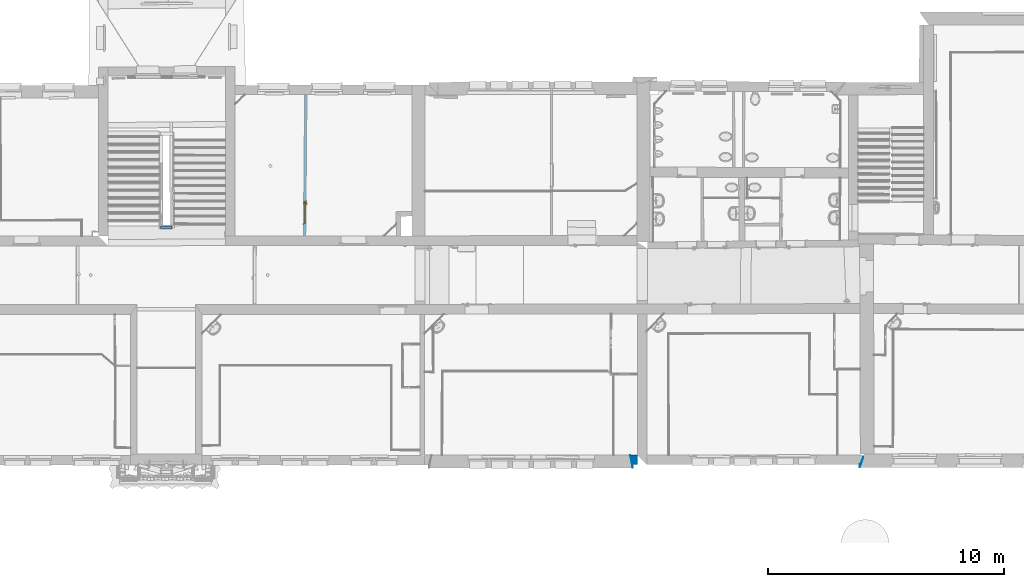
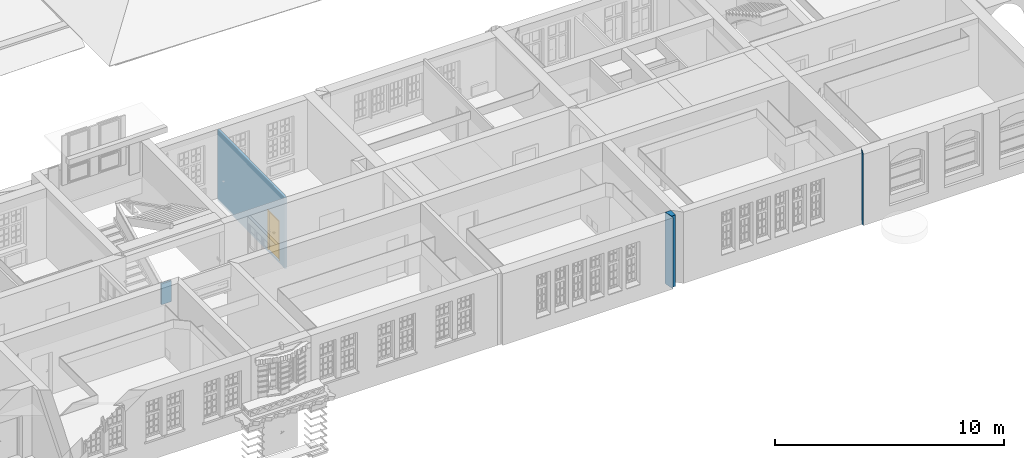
# One storey, part 76 of 158: 4 walls, 1 door, 1 opening, plus 1 element that does not belong to this part.
"""IFC2X3 building model written with IfcOpenShell, lengths in metres."""

from ifc_helpers import new_model, entity, si_unit, converted_unit, derived_unit, money_unit, direction, frame, origin_with_axes, origin_2d_with_axis, place, context, subcontext, project, spatial, polyline, rectangle, outline, extrude, boolean, faceted_brep, material, layer, layer_set, layer_usage, type_object, element, fill, save


model = new_model("IFC2X3")

# Units and contexts
model_context = context("Model", 3, precision=1e-05, world=origin_with_axes(), true_north=direction((0.0, 1.0)))
body_context = subcontext(model_context, "Body", "Model", "MODEL_VIEW")
ifc_project = project(units=[si_unit("LENGTHUNIT", "METRE"), si_unit("AREAUNIT", "SQUARE_METRE"), si_unit("VOLUMEUNIT", "CUBIC_METRE"), converted_unit("PLANEANGLEUNIT", "DEGREE", entity("IfcPlaneAngleMeasure", 0.0174532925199), si_unit("PLANEANGLEUNIT", "RADIAN"), dimensions=[0, 0, 0, 0, 0, 0, 0]), money_unit("EUR"), converted_unit("TIMEUNIT", "Year", entity("IfcTimeMeasure", 31556926.0), si_unit("TIMEUNIT", "SECOND"), dimensions=[0, 0, 1, 0, 0, 0, 0]), si_unit("MASSUNIT", "GRAM", prefix="KILO"), si_unit("THERMODYNAMICTEMPERATUREUNIT", "DEGREE_CELSIUS"), si_unit("LUMINOUSINTENSITYUNIT", "LUMEN"), si_unit("ENERGYUNIT", "JOULE", prefix="MEGA"), derived_unit("THERMALCONDUCTANCEUNIT", [(si_unit("POWERUNIT", "WATT"), 1), (si_unit("LENGTHUNIT", "METRE"), -1), (si_unit("THERMODYNAMICTEMPERATUREUNIT", "KELVIN"), -1)]), derived_unit("SPECIFICHEATCAPACITYUNIT", [(si_unit("ENERGYUNIT", "JOULE"), 1), (si_unit("MASSUNIT", "GRAM", prefix="KILO"), -1), (si_unit("THERMODYNAMICTEMPERATUREUNIT", "KELVIN"), -1)]), derived_unit("MASSDENSITYUNIT", [(si_unit("MASSUNIT", "GRAM", prefix="KILO"), 1), (si_unit("VOLUMEUNIT", "CUBIC_METRE"), -1)])], contexts=[model_context])

# Site, building, storey
site_placement = place(None, origin_with_axes())
site = spatial("IfcSite", under=ifc_project, at=site_placement, Name="Gelände", CompositionType="ELEMENT")
building_placement = place(site_placement, origin_with_axes())
building = spatial("IfcBuilding", under=site, at=building_placement, Name="Gebäude", CompositionType="ELEMENT")
storey_placement = place(building_placement, origin_with_axes())
storey = spatial("IfcBuildingStorey", under=building, at=storey_placement, Name="ERDGESCHOSS", CompositionType="ELEMENT", Elevation=0.0)

# Walls
ifc_material_1 = material(Name="05_ALLGEMEIN - TRAGENDE BAUTEILE")
wall_type_1 = type_object("IfcWallType", Name="05_ALLGEMEIN - TRAGENDE BAUTEILE 200", PredefinedType="ELEMENTEDWALL")
wall_1_placement = place(storey_placement, frame((21.9741936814, 10.0144287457, -0.295), z_axis=(0.0, 0.0, 1.0), x_axis=(0.00946795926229, -0.999955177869, 0.0)))
element("IfcWall", 1, at=wall_1_placement, inside=storey, type_object=wall_type_1, material=ifc_material_1, Name="Wand-035", ObjectType="ELEMENTEDWALL", context=body_context, shape_type="CSG", body=[
    boolean("DIFFERENCE", extrude(outline(polyline([(-0.454518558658, 0.0), (0.127345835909, 0.0), (0.127345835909, 0.2), (-0.454518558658, 0.2), (-0.454518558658, 0.0)])), origin_with_axes(), (0.0, 0.0, 1.0), 3.895), faceted_brep([(-0.306853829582, 0.15218999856, 3.895), (0.125505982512, 0.0, 3.895), (0.127345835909, 0.0, 3.895), (0.127345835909, 0.2, 3.895), (-0.454518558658, 0.2, 3.895), (-0.454518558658, 0.0, 3.895), (0.0, 0.0, 3.895), (-0.306853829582, 0.15218999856, 0.085), (0.125505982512, 0.0, 0.085), (0.0, 0.0, 0.085), (-0.454518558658, 0.0, 0.0), (0.127345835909, 0.0, 0.0), (0.127345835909, 0.2, 0.0), (-0.454518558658, 0.2, 0.0)], [[[0, 1, 2, 3, 4, 5, 6]], [[1, 0, 7, 8]], [[9, 6, 5, 10, 11, 2, 1, 8]], [[2, 11, 12, 3]], [[3, 12, 13, 4]], [[4, 13, 10, 5]], [[0, 6, 9, 7]], [[9, 8, 7]], [[11, 10, 13, 12]]])),
])
wall_type_2 = type_object("IfcWallType", Name="05_ALLGEMEIN - TRAGENDE BAUTEILE 100", PredefinedType="ELEMENTEDWALL")
wall_2_placement = place(storey_placement, frame((12.3581123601, 9.87290900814, -0.21), z_axis=(0.0, 0.0, 1.0), x_axis=(0.000174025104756, 0.999999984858, 0.0)))
element("IfcWall", 2, at=wall_2_placement, inside=storey, type_object=wall_type_2, material=ifc_material_1, Name="Wand-033", ObjectType="ELEMENTEDWALL", context=body_context, shape_type="CSG", body=[
    boolean("DIFFERENCE", extrude(outline(polyline([(0.0, 0.0), (0.540323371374, 0.0), (0.540323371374, 0.1), (0.0, 0.1), (0.0, 0.0)])), origin_with_axes(), (0.0, 0.0, 1.0), 3.81), faceted_brep([(0.54000000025, 0.1, 3.81), (0.54000000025, 0.0999403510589, 3.81), (0.135323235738, 0.0, 3.81), (0.540323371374, 0.0, 3.81), (0.540323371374, 0.1, 3.81), (0.54000000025, 0.1, 0.0), (0.54000000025, 0.0999403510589, 0.0), (0.135323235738, 0.0, 0.0), (0.540323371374, 0.0, 0.0), (0.540323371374, 0.1, 0.0), (0.0, 0.1, 0.0), (0.0, 0.1, 3.81), (0.0, 0.0, 3.81), (0.0, 0.0, 0.0)], [[[0, 1, 2, 3, 4]], [[1, 0, 5, 6]], [[7, 2, 1, 6]], [[2, 7, 8, 3]], [[3, 8, 9, 4]], [[4, 9, 5, 10, 11, 0]], [[0, 12, 13, 5]], [[6, 5, 9, 8, 7]], [[5, 13, 10]], [[13, 12, 11, 10]], [[12, 0, 11]]])),
])
wall_type_3 = type_object("IfcWallType", Name="05_ALLGEMEIN - TRAGENDE BAUTEILE 405", PredefinedType="ELEMENTEDWALL")
wall_3_placement = place(storey_placement, frame((12.3581359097, 10.0082322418, -0.21), z_axis=(0.0, 0.0, 1.0), x_axis=(0.99999979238, 0.000644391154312, 0.0)))
element("IfcWall", 3, at=wall_3_placement, inside=storey, type_object=wall_type_3, material=ifc_material_1, Name="Wand-034", ObjectType="ELEMENTEDWALL", context=body_context, shape_type="CSG", body=[
    boolean("DIFFERENCE", extrude(outline(polyline([(-0.10000003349, 0.0), (0.609705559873, 0.0), (0.609705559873, 0.405), (-0.10000003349, 0.405), (-0.10000003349, 0.0)])), origin_with_axes(), (0.0, 0.0, 1.0), 3.81), faceted_brep([(-0.0996091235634, 0.404758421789, 3.81), (0.199597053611, 0.404513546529, 3.81), (0.199705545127, 0.0, 3.81), (0.609705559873, 0.0, 3.81), (0.609705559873, 0.405, 3.81), (-0.10000003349, 0.405, 3.81), (-0.10000003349, 0.0, 3.81), (0.0, 0.0, 3.81), (-0.0996091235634, 0.404758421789, 0.0), (0.199597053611, 0.404513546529, 0.0), (0.199597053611, 0.404513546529, 0.14), (0.199705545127, 0.0, 0.0), (0.609705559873, 0.0, 0.0), (0.609705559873, 0.405, 0.0), (-0.10000003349, 0.405, 0.0), (-0.10000003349, 0.0, 0.0), (0.0, 0.0, 0.0)], [[[0, 1, 2, 3, 4, 5, 6, 7]], [[1, 0, 8, 9, 10]], [[11, 2, 1, 10, 9]], [[2, 11, 12, 3]], [[3, 12, 13, 4]], [[4, 13, 14, 5]], [[5, 14, 15, 6]], [[16, 7, 6, 15]], [[0, 7, 16, 8]], [[8, 16, 15, 14, 13, 12, 11, 9]]])),
])

# Wall, opening, door
ifc_material_2 = material(Name="43_Gipskarton")
ifc_layer = layer(ifc_material_2, 0.1, ventilated="UNKNOWN")
ifc_layer_set = layer_set([ifc_layer], Name="43_Gipskarton 0.1")
ifc_layer_usage = layer_usage(ifc_layer_set, "AXIS2", "NEGATIVE", 0.0)
wall_type_4 = type_object("IfcWallType", Name="43_Gipskarton 100", PredefinedType="ELEMENTEDWALL")
wall_4_placement = place(storey_placement, frame((-1.42108539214, 26.0654513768, -0.21), z_axis=(0.0, 0.0, 1.0), x_axis=(-0.00889496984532, -0.999960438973, 0.0)))
wall_4 = element("IfcWallStandardCase", 4, at=wall_4_placement, inside=storey, type_object=wall_type_4, material=ifc_layer_usage, Name="Wand-038", ObjectType="ELEMENTEDWALL", context=body_context, shape_type="SweptSolid", body=[
    extrude(outline(polyline([(0.401050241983, -0.1), (6.37488743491, -0.1), (6.37396878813, 0.0), (0.400021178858, 0.0), (0.401050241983, -0.1)])), origin_with_axes(), (0.0, 0.0, 1.0), 3.81),
])
opening_placement = place(wall_4_placement, frame((5.3862509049, 0.0, 0.126115), z_axis=(0.0, 0.0, 1.0), x_axis=(1.0, 0.0, 0.0)))
opening = element("IfcOpeningElement", 5, at=opening_placement, cuts=wall_4, Name="Tür-022", context=body_context, shape_type="SweptSolid", body=[
    extrude(rectangle(XDim=0.966881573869, YDim=2.103887, at=origin_2d_with_axis()), frame((0.0, -0.1, 1.0519435), z_axis=(0.0, 1.0, 0.0), x_axis=(1.0, 0.0, 0.0)), (0.0, 0.0, 1.0), 0.3),
])
door_style = type_object("IfcDoorStyle", Name="Blockrahmentür 1-Fl 25", ConstructionType="NOTDEFINED", OperationType="SINGLE_SWING_RIGHT", ParameterTakesPrecedence=False, Sizeable=False)
door_placement = place(opening_placement, frame((-0.472940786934, 0.0, 0.0), z_axis=(0.0, 0.0, 1.0), x_axis=(1.0, 0.0, 0.0)))
door = element("IfcDoor", 6, at=door_placement, inside=storey, type_object=door_style, Name="Tür-022", ObjectType="NOTDEFINED", OverallHeight=2.10389, OverallWidth=0.966882, context=body_context, shape_type="Brep", body=[
    faceted_brep([(0.956381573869, -0.111, 0.0), (0.956381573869, -0.054, 0.0), (0.956381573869, -0.054, 2.103887), (0.956381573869, -0.111, 2.103887), (0.945881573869, -0.111, 0.0), (0.945881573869, -0.054, 0.0), (0.945881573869, -0.054, 2.093387), (0.588040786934, -0.054, 2.093387), (0.473040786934, -0.054, 2.093387), (0.0, -0.054, 2.093387), (0.0, -0.054, 0.0), (-0.0105, -0.054, 0.0), (-0.0105, -0.054, 2.103887), (-0.0105, -0.111, 2.103887), (-0.0105, -0.111, 0.0), (0.0, -0.111, 0.0), (0.0, -0.111, 2.093387), (0.473040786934, -0.111, 2.093387), (0.588040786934, -0.111, 2.093387), (0.945881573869, -0.111, 2.093387)], [[[0, 1, 2, 3]], [[4, 5, 1, 0]], [[1, 5, 6, 7, 8, 9, 10, 11, 12, 2]], [[3, 2, 12, 13]], [[0, 3, 13, 14, 15, 16, 17, 18, 19, 4]], [[19, 6, 5, 4]], [[18, 7, 6, 19]], [[17, 8, 7, 18]], [[16, 9, 8, 17]], [[15, 10, 9, 16]], [[14, 11, 10, 15]], [[13, 12, 11, 14]]]),
    faceted_brep([(0.956381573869, -0.054, 0.0), (0.956381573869, 0.011, 0.0), (0.960881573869, 0.011, 0.0), (0.960881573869, -0.054, 0.0), (0.956381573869, -0.054, 2.103887), (0.956381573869, 0.011, 2.103887), (-0.0105, 0.011, 2.103887), (-0.0105, 0.011, 0.0), (-0.015, 0.011, 0.0), (-0.015, 0.011, 2.108387), (0.488040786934, 0.011, 2.108387), (0.573040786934, 0.011, 2.108387), (0.960881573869, 0.011, 2.108387), (0.960881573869, -0.054, 2.108387), (0.573040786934, -0.054, 2.108387), (0.488040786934, -0.054, 2.108387), (-0.015, -0.054, 2.108387), (-0.015, -0.054, 0.0), (-0.0105, -0.054, 0.0), (-0.0105, -0.054, 2.103887)], [[[0, 1, 2, 3]], [[4, 5, 1, 0]], [[1, 5, 6, 7, 8, 9, 10, 11, 12, 2]], [[3, 2, 12, 13]], [[0, 3, 13, 14, 15, 16, 17, 18, 19, 4]], [[19, 6, 5, 4]], [[18, 7, 6, 19]], [[17, 8, 7, 18]], [[16, 9, 8, 17]], [[15, 10, 9, 16]], [[14, 11, 10, 15]], [[13, 12, 11, 14]]]),
    faceted_brep([(0.996381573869, -0.111, 0.0), (0.996381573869, -0.1, 0.0), (0.996381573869, -0.1, 2.143887), (0.996381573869, -0.111, 2.143887), (0.956381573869, -0.111, 0.0), (0.956381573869, -0.1, 0.0), (0.956381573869, -0.1, 2.103887), (-0.0105, -0.1, 2.103887), (-0.0105, -0.1, 0.0), (-0.0505, -0.1, 0.0), (-0.0505, -0.1, 2.143887), (-0.0505, -0.111, 2.143887), (-0.0505, -0.111, 0.0), (-0.0105, -0.111, 0.0), (-0.0105, -0.111, 2.103887), (0.956381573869, -0.111, 2.103887)], [[[0, 1, 2, 3]], [[4, 5, 1, 0]], [[1, 5, 6, 7, 8, 9, 10, 2]], [[3, 2, 10, 11]], [[0, 3, 11, 12, 13, 14, 15, 4]], [[15, 6, 5, 4]], [[14, 7, 6, 15]], [[13, 8, 7, 14]], [[12, 9, 8, 13]], [[11, 10, 9, 12]]]),
    faceted_brep([(0.996381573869, 0.0, 0.0), (0.996381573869, 0.011, 0.0), (0.996381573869, 0.011, 2.143887), (0.996381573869, 0.0, 2.143887), (0.956381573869, 0.0, 0.0), (0.956381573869, 0.011, 0.0), (0.956381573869, 0.011, 2.103887), (-0.0105, 0.011, 2.103887), (-0.0105, 0.011, 0.0), (-0.0505, 0.011, 0.0), (-0.0505, 0.011, 2.143887), (-0.0505, 0.0, 2.143887), (-0.0505, 0.0, 0.0), (-0.0105, 0.0, 0.0), (-0.0105, 0.0, 2.103887), (0.956381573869, 0.0, 2.103887)], [[[0, 1, 2, 3]], [[4, 5, 1, 0]], [[1, 5, 6, 7, 8, 9, 10, 2]], [[3, 2, 10, 11]], [[0, 3, 11, 12, 13, 14, 15, 4]], [[15, 6, 5, 4]], [[14, 7, 6, 15]], [[13, 8, 7, 14]], [[12, 9, 8, 13]], [[11, 10, 9, 12]]]),
    faceted_brep([(0.960881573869, -0.014, 0.0), (-0.015, -0.014, 0.0), (-0.015, -0.014, 2.108387), (0.960881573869, -0.014, 2.108387), (0.960881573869, -0.054, 0.0), (-0.015, -0.054, 0.0), (-0.015, -0.054, 2.108387), (0.960881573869, -0.054, 2.108387)], [[[0, 1, 2, 3]], [[1, 0, 4, 5]], [[2, 1, 5, 6]], [[3, 2, 6, 7]], [[0, 3, 7, 4]], [[5, 4, 7, 6]]]),
    faceted_brep([(0.0402977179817, -0.094, 1.05647213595), (0.045, -0.094, 1.058), (0.045, -0.074, 1.058), (0.0402977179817, -0.074, 1.05647213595), (0.0373915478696, -0.094, 1.05247213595), (0.0373915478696, -0.094, 1.04752786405), (0.0402977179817, -0.094, 1.04352786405), (0.045, -0.094, 1.042), (0.0497022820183, -0.094, 1.04352786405), (0.0526084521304, -0.094, 1.04752786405), (0.0526084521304, -0.094, 1.05247213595), (0.0497022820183, -0.094, 1.05647213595), (0.0497022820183, -0.074, 1.05647213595), (0.045, -0.072, 1.06), (0.0391221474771, -0.072, 1.05809016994), (0.0373915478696, -0.074, 1.05247213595), (0.0373915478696, -0.074, 1.04752786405), (0.0402977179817, -0.074, 1.04352786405), (0.045, -0.074, 1.042), (0.0497022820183, -0.074, 1.04352786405), (0.0526084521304, -0.074, 1.04752786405), (0.0526084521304, -0.074, 1.05247213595), (0.0508778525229, -0.072, 1.05809016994), (0.045, -0.064, 1.06), (0.0391221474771, -0.064, 1.05809016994), (0.035489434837, -0.072, 1.05309016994), (0.035489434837, -0.072, 1.04690983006), (0.0391221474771, -0.072, 1.04190983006), (0.045, -0.072, 1.04), (0.0508778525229, -0.072, 1.04190983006), (0.054510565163, -0.072, 1.04690983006), (0.054510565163, -0.072, 1.05309016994), (0.0508778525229, -0.064, 1.05809016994), (0.0545105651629, -0.064, 1.05309016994), (0.0545105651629, -0.064, 1.04690983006), (0.0508778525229, -0.064, 1.04190983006), (0.045, -0.064, 1.04), (0.0391221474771, -0.064, 1.04190983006), (0.0354894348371, -0.064, 1.04690983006), (0.0354894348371, -0.064, 1.05309016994)], [[[0, 1, 2, 3]], [[1, 0, 4, 5, 6, 7, 8, 9, 10, 11]], [[1, 11, 12, 2]], [[3, 2, 13, 14]], [[4, 0, 3, 15]], [[5, 4, 15, 16]], [[6, 5, 16, 17]], [[7, 6, 17, 18]], [[8, 7, 18, 19]], [[9, 8, 19, 20]], [[10, 9, 20, 21]], [[11, 10, 21, 12]], [[2, 12, 22, 13]], [[14, 13, 23, 24]], [[15, 3, 14, 25]], [[16, 15, 25, 26]], [[17, 16, 26, 27]], [[18, 17, 27, 28]], [[19, 18, 28, 29]], [[20, 19, 29, 30]], [[21, 20, 30, 31]], [[12, 21, 31, 22]], [[13, 22, 32, 23]], [[23, 32, 33, 34, 35, 36, 37, 38, 39, 24]], [[25, 14, 24, 39]], [[26, 25, 39, 38]], [[27, 26, 38, 37]], [[28, 27, 37, 36]], [[29, 28, 36, 35]], [[30, 29, 35, 34]], [[31, 30, 34, 33]], [[22, 31, 33, 32]]]),
    faceted_brep([(0.0571883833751, -0.064, 1.11759695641), (0.0494435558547, -0.064, 1.12195567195), (0.0405564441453, -0.064, 1.12195567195), (0.0328116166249, -0.064, 1.11759695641), (0.0282, -0.064, 1.11), (0.0225, -0.064, 1.11), (0.0225, -0.064, 0.89), (0.0282, -0.064, 0.89), (0.0328116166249, -0.064, 0.882403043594), (0.0405564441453, -0.064, 0.878044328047), (0.0494435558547, -0.064, 0.878044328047), (0.0571883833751, -0.064, 0.882403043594), (0.0618, -0.064, 0.89), (0.0675, -0.064, 0.89), (0.0675, -0.064, 1.11), (0.0618, -0.064, 1.11), (0.045, -0.064, 0.967425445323), (0.050375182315, -0.064, 0.965143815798), (0.0524678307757, -0.064, 0.959692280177), (0.05, -0.064, 0.9544), (0.05, -0.064, 0.9375), (0.0485355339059, -0.064, 0.933964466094), (0.045, -0.064, 0.9325), (0.0414644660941, -0.064, 0.933964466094), (0.04, -0.064, 0.9375), (0.04, -0.064, 0.9544), (0.0375321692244, -0.064, 0.959692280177), (0.039624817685, -0.064, 0.965143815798), (0.0571883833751, -0.054, 1.11759695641), (0.0494435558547, -0.054, 1.12195567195), (0.0405564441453, -0.054, 1.12195567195), (0.0328116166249, -0.054, 1.11759695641), (0.0282, -0.054, 1.11), (0.0225, -0.054, 1.11), (0.0225, -0.054, 0.89), (0.0282, -0.054, 0.89), (0.0328116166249, -0.054, 0.882403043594), (0.0405564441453, -0.054, 0.878044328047), (0.0494435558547, -0.054, 0.878044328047), (0.0571883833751, -0.054, 0.882403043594), (0.0618, -0.054, 0.89), (0.0675, -0.054, 0.89), (0.0675, -0.054, 1.11), (0.0618, -0.054, 1.11), (0.045, -0.054, 0.967425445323), (0.050375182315, -0.054, 0.965143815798), (0.0524678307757, -0.054, 0.959692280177), (0.05, -0.054, 0.9544), (0.05, -0.054, 0.9375), (0.0485355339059, -0.054, 0.933964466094), (0.045, -0.054, 0.9325), (0.0414644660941, -0.054, 0.933964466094), (0.04, -0.054, 0.9375), (0.04, -0.054, 0.9544), (0.0375321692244, -0.054, 0.959692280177), (0.039624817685, -0.054, 0.965143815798)], [[[0, 1, 2, 3, 4, 5, 6, 7, 8, 9, 10, 11, 12, 13, 14, 15], [16, 17, 18, 19, 20, 21, 22, 23, 24, 25, 26, 27]], [[1, 0, 28, 29]], [[2, 1, 29, 30]], [[3, 2, 30, 31]], [[4, 3, 31, 32]], [[5, 4, 32, 33]], [[6, 5, 33, 34]], [[7, 6, 34, 35]], [[8, 7, 35, 36]], [[9, 8, 36, 37]], [[10, 9, 37, 38]], [[11, 10, 38, 39]], [[12, 11, 39, 40]], [[13, 12, 40, 41]], [[14, 13, 41, 42]], [[15, 14, 42, 43]], [[0, 15, 43, 28]], [[17, 16, 44, 45]], [[18, 17, 45, 46]], [[19, 18, 46, 47]], [[19, 47, 48, 20]], [[20, 48, 49, 21]], [[21, 49, 50, 22]], [[22, 50, 51, 23]], [[23, 51, 52, 24]], [[53, 25, 24, 52]], [[26, 25, 53, 54]], [[27, 26, 54, 55]], [[16, 27, 55, 44]], [[40, 39, 38, 37, 36, 35, 34, 33, 32, 31, 30, 29, 28, 43, 42, 41], [54, 53, 52, 51, 50, 49, 48, 47, 46, 45, 44, 55]]]),
    faceted_brep([(0.159253, -0.094, 1.057158), (0.159253, -0.109, 1.057158), (0.159254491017, -0.109, 1.05719388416), (0.159254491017, -0.094, 1.05719388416), (0.132225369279, -0.094, 1.06432652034), (0.132225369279, -0.109, 1.06432652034), (0.104397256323, -0.109, 1.06706086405), (0.0764912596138, -0.109, 1.06529002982), (0.049232, -0.109, 1.05906), (0.0428294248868, -0.109, 1.05976125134), (0.0373273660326, -0.109, 1.05641280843), (0.0350084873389, -0.109, 1.05040385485), (0.0368348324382, -0.109, 1.04422735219), (0.0420486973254, -0.109, 1.04044577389), (0.0484869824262, -0.109, 1.04062800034), (0.0534786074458, -0.109, 1.04469843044), (0.053458, -0.109, 1.044666), (0.0787467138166, -0.109, 1.05019878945), (0.104589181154, -0.109, 1.05171460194), (0.130351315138, -0.109, 1.04917624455), (0.155401, -0.109, 1.042646), (0.160944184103, -0.109, 1.04356849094), (0.16430572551, -0.109, 1.04807159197), (0.163614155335, -0.109, 1.05364829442), (0.163614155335, -0.094, 1.05364829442), (0.16430572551, -0.094, 1.04807159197), (0.160944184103, -0.094, 1.04356849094), (0.155401, -0.094, 1.042646), (0.130351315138, -0.094, 1.04917624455), (0.104589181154, -0.094, 1.05171460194), (0.0787467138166, -0.094, 1.05019878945), (0.053458, -0.094, 1.044666), (0.0534786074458, -0.094, 1.04469843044), (0.0484869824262, -0.094, 1.04062800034), (0.0420486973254, -0.094, 1.04044577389), (0.0368348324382, -0.094, 1.04422735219), (0.0350084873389, -0.094, 1.05040385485), (0.0373273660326, -0.094, 1.05641280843), (0.0428294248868, -0.094, 1.05976125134), (0.049232, -0.094, 1.05906), (0.0764912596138, -0.094, 1.06529002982), (0.104397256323, -0.094, 1.06706086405)], [[[0, 1, 2, 3]], [[4, 5, 1, 0]], [[1, 5, 6, 7, 8, 9, 10, 11, 12, 13, 14, 15, 16, 17, 18, 19, 20, 21, 22, 23, 2]], [[3, 2, 23, 24]], [[0, 3, 24, 25, 26, 27, 28, 29, 30, 31, 32, 33, 34, 35, 36, 37, 38, 39, 40, 41, 4]], [[41, 6, 5, 4]], [[40, 7, 6, 41]], [[39, 8, 7, 40]], [[38, 9, 8, 39]], [[37, 10, 9, 38]], [[36, 11, 10, 37]], [[35, 12, 11, 36]], [[34, 13, 12, 35]], [[33, 14, 13, 34]], [[32, 15, 14, 33]], [[31, 16, 15, 32]], [[30, 17, 16, 31]], [[29, 18, 17, 30]], [[28, 19, 18, 29]], [[27, 20, 19, 28]], [[26, 21, 20, 27]], [[25, 22, 21, 26]], [[24, 23, 22, 25]]]),
    faceted_brep([(0.0402977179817, 0.026, 1.05647213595), (0.0402977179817, 0.006, 1.05647213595), (0.045, 0.006, 1.058), (0.045, 0.026, 1.058), (0.0373915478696, 0.026, 1.05247213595), (0.0373915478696, 0.006, 1.05247213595), (0.0391221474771, 0.004, 1.05809016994), (0.045, 0.004, 1.06), (0.0497022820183, 0.006, 1.05647213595), (0.0497022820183, 0.026, 1.05647213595), (0.0526084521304, 0.026, 1.05247213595), (0.0526084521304, 0.026, 1.04752786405), (0.0497022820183, 0.026, 1.04352786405), (0.045, 0.026, 1.042), (0.0402977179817, 0.026, 1.04352786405), (0.0373915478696, 0.026, 1.04752786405), (0.0373915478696, 0.006, 1.04752786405), (0.035489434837, 0.004, 1.05309016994), (0.0391221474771, -0.004, 1.05809016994), (0.045, -0.004, 1.06), (0.0508778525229, 0.004, 1.05809016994), (0.0526084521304, 0.006, 1.05247213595), (0.0526084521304, 0.006, 1.04752786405), (0.0497022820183, 0.006, 1.04352786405), (0.045, 0.006, 1.042), (0.0402977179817, 0.006, 1.04352786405), (0.035489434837, 0.004, 1.04690983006), (0.0354894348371, -0.004, 1.05309016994), (0.0354894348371, -0.004, 1.04690983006), (0.0391221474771, -0.004, 1.04190983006), (0.045, -0.004, 1.04), (0.0508778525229, -0.004, 1.04190983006), (0.054510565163, -0.004, 1.04690983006), (0.054510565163, -0.004, 1.05309016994), (0.0508778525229, -0.004, 1.05809016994), (0.0545105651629, 0.004, 1.05309016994), (0.0545105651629, 0.004, 1.04690983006), (0.0508778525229, 0.004, 1.04190983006), (0.045, 0.004, 1.04), (0.0391221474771, 0.004, 1.04190983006)], [[[0, 1, 2, 3]], [[4, 5, 1, 0]], [[1, 6, 7, 2]], [[3, 2, 8, 9]], [[3, 9, 10, 11, 12, 13, 14, 15, 4, 0]], [[15, 16, 5, 4]], [[5, 17, 6, 1]], [[6, 18, 19, 7]], [[2, 7, 20, 8]], [[9, 8, 21, 10]], [[10, 21, 22, 11]], [[11, 22, 23, 12]], [[12, 23, 24, 13]], [[13, 24, 25, 14]], [[14, 25, 16, 15]], [[16, 26, 17, 5]], [[17, 27, 18, 6]], [[19, 18, 27, 28, 29, 30, 31, 32, 33, 34]], [[7, 19, 34, 20]], [[8, 20, 35, 21]], [[21, 35, 36, 22]], [[22, 36, 37, 23]], [[23, 37, 38, 24]], [[24, 38, 39, 25]], [[25, 39, 26, 16]], [[26, 28, 27, 17]], [[39, 29, 28, 26]], [[38, 30, 29, 39]], [[37, 31, 30, 38]], [[36, 32, 31, 37]], [[35, 33, 32, 36]], [[20, 34, 33, 35]]]),
    faceted_brep([(0.0571883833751, -0.014, 1.11759695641), (0.0494435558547, -0.014, 1.12195567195), (0.0405564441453, -0.014, 1.12195567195), (0.0328116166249, -0.014, 1.11759695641), (0.0282, -0.014, 1.11), (0.0225, -0.014, 1.11), (0.0225, -0.014, 0.89), (0.0282, -0.014, 0.89), (0.0328116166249, -0.014, 0.882403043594), (0.0405564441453, -0.014, 0.878044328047), (0.0494435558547, -0.014, 0.878044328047), (0.0571883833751, -0.014, 0.882403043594), (0.0618, -0.014, 0.89), (0.0675, -0.014, 0.89), (0.0675, -0.014, 1.11), (0.0618, -0.014, 1.11), (0.045, -0.014, 0.967425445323), (0.050375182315, -0.014, 0.965143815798), (0.0524678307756, -0.014, 0.959692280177), (0.05, -0.014, 0.9544), (0.05, -0.014, 0.9375), (0.0485355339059, -0.014, 0.933964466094), (0.045, -0.014, 0.9325), (0.0414644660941, -0.014, 0.933964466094), (0.04, -0.014, 0.9375), (0.04, -0.014, 0.9544), (0.0375321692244, -0.014, 0.959692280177), (0.039624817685, -0.014, 0.965143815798), (0.0494435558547, -0.004, 1.12195567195), (0.0571883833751, -0.004, 1.11759695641), (0.0405564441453, -0.004, 1.12195567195), (0.0328116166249, -0.004, 1.11759695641), (0.0282, -0.004, 1.11), (0.0225, -0.004, 1.11), (0.0225, -0.004, 0.89), (0.0282, -0.004, 0.89), (0.0328116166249, -0.004, 0.882403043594), (0.0405564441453, -0.004, 0.878044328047), (0.0494435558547, -0.004, 0.878044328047), (0.0571883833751, -0.004, 0.882403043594), (0.0618, -0.004, 0.89), (0.0675, -0.004, 0.89), (0.0675, -0.004, 1.11), (0.0618, -0.004, 1.11), (0.045, -0.004, 0.967425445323), (0.050375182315, -0.004, 0.965143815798), (0.0524678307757, -0.004, 0.959692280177), (0.05, -0.004, 0.9544), (0.05, -0.004, 0.9375), (0.0485355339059, -0.004, 0.933964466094), (0.045, -0.004, 0.9325), (0.0414644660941, -0.004, 0.933964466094), (0.04, -0.004, 0.9375), (0.04, -0.004, 0.9544), (0.0375321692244, -0.004, 0.959692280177), (0.039624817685, -0.004, 0.965143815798)], [[[0, 1, 2, 3, 4, 5, 6, 7, 8, 9, 10, 11, 12, 13, 14, 15], [16, 17, 18, 19, 20, 21, 22, 23, 24, 25, 26, 27]], [[28, 1, 0, 29]], [[30, 2, 1, 28]], [[31, 3, 2, 30]], [[32, 4, 3, 31]], [[33, 5, 4, 32]], [[34, 6, 5, 33]], [[35, 7, 6, 34]], [[36, 8, 7, 35]], [[37, 9, 8, 36]], [[38, 10, 9, 37]], [[39, 11, 10, 38]], [[40, 12, 11, 39]], [[41, 13, 12, 40]], [[42, 14, 13, 41]], [[43, 15, 14, 42]], [[29, 0, 15, 43]], [[17, 16, 44, 45]], [[18, 17, 45, 46]], [[19, 18, 46, 47]], [[19, 47, 48, 20]], [[20, 48, 49, 21]], [[21, 49, 50, 22]], [[22, 50, 51, 23]], [[23, 51, 52, 24]], [[53, 25, 24, 52]], [[26, 25, 53, 54]], [[27, 26, 54, 55]], [[16, 27, 55, 44]], [[40, 39, 38, 37, 36, 35, 34, 33, 32, 31, 30, 28, 29, 43, 42, 41], [54, 53, 52, 51, 50, 49, 48, 47, 46, 45, 44, 55]]]),
    faceted_brep([(0.159253, 0.026, 1.057158), (0.159254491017, 0.026, 1.05719388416), (0.159254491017, 0.041, 1.05719388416), (0.159253, 0.041, 1.057158), (0.132225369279, 0.026, 1.06432652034), (0.104397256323, 0.026, 1.06706086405), (0.0764912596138, 0.026, 1.06529002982), (0.049232, 0.026, 1.05906), (0.0428294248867, 0.026, 1.05976125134), (0.0373273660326, 0.026, 1.05641280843), (0.0350084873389, 0.026, 1.05040385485), (0.0368348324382, 0.026, 1.04422735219), (0.0420486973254, 0.026, 1.04044577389), (0.0484869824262, 0.026, 1.04062800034), (0.0534786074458, 0.026, 1.04469843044), (0.053458, 0.026, 1.044666), (0.0787467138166, 0.026, 1.05019878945), (0.104589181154, 0.026, 1.05171460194), (0.130351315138, 0.026, 1.04917624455), (0.155401, 0.026, 1.042646), (0.160944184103, 0.026, 1.04356849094), (0.16430572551, 0.026, 1.04807159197), (0.163614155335, 0.026, 1.05364829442), (0.163614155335, 0.041, 1.05364829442), (0.16430572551, 0.041, 1.04807159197), (0.160944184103, 0.041, 1.04356849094), (0.155401, 0.041, 1.042646), (0.130351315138, 0.041, 1.04917624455), (0.104589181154, 0.041, 1.05171460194), (0.0787467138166, 0.041, 1.05019878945), (0.053458, 0.041, 1.044666), (0.0534786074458, 0.041, 1.04469843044), (0.0484869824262, 0.041, 1.04062800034), (0.0420486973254, 0.041, 1.04044577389), (0.0368348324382, 0.041, 1.04422735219), (0.0350084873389, 0.041, 1.05040385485), (0.0373273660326, 0.041, 1.05641280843), (0.0428294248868, 0.041, 1.05976125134), (0.049232, 0.041, 1.05906), (0.0764912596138, 0.041, 1.06529002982), (0.104397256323, 0.041, 1.06706086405), (0.132225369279, 0.041, 1.06432652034)], [[[0, 1, 2, 3]], [[0, 4, 5, 6, 7, 8, 9, 10, 11, 12, 13, 14, 15, 16, 17, 18, 19, 20, 21, 22, 1]], [[1, 22, 23, 2]], [[3, 2, 23, 24, 25, 26, 27, 28, 29, 30, 31, 32, 33, 34, 35, 36, 37, 38, 39, 40, 41]], [[4, 0, 3, 41]], [[5, 4, 41, 40]], [[6, 5, 40, 39]], [[7, 6, 39, 38]], [[8, 7, 38, 37]], [[9, 8, 37, 36]], [[10, 9, 36, 35]], [[11, 10, 35, 34]], [[12, 11, 34, 33]], [[13, 12, 33, 32]], [[14, 13, 32, 31]], [[15, 14, 31, 30]], [[16, 15, 30, 29]], [[17, 16, 29, 28]], [[18, 17, 28, 27]], [[19, 18, 27, 26]], [[20, 19, 26, 25]], [[21, 20, 25, 24]], [[22, 21, 24, 23]]]),
])
fill(opening, door)

# Wall
wall_type_5 = type_object("IfcWallType", Name="05_ALLGEMEIN - TRAGENDE BAUTEILE 87", PredefinedType="ELEMENTEDWALL")
wall_5_placement = place(storey_placement, frame((-7.53816169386, 20.0092954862, -0.209998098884), z_axis=(0.0, 0.0, 1.0), x_axis=(1.0, 0.0, 0.0)))
element("IfcWall", 7, at=wall_5_placement, inside=storey, type_object=wall_type_5, material=ifc_material_1, Name="Wand-038", ObjectType="ELEMENTEDWALL", context=body_context, shape_type="CSG", body=[
    boolean("DIFFERENCE", extrude(outline(polyline([(-0.0821688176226, 0.0), (0.411398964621, 0.0), (0.411398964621, 0.0870507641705), (-0.0821688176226, 0.0870507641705), (-0.0821688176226, 0.0)])), origin_with_axes(), (0.0, 0.0, 1.0), 1.11622343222), faceted_brep([(0.411398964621, 0.0870507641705, 0.0), (0.411398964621, 0.0870507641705, 1.02305016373), (0.411398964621, 0.0870507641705, 1.11622343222), (0.411398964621, 0.0, 1.11622343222), (0.411398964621, 0.0, 0.0), (0.411366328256, 0.0, 0.0), (0.411366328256, 0.0, 1.02305016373), (0.411366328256, 0.0870507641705, 1.02602013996), (-0.0821688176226, 0.0870507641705, 1.02602013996), (-0.0821688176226, 0.0870507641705, 1.11622343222), (0.411366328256, 0.0870507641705, 1.02305016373), (-0.0821688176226, 0.0, 1.11622343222), (-0.0821688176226, 0.0, 0.0), (0.0, 0.0, 0.0), (0.0, 0.0, 0.0899980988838), (-0.0820227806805, 0.0, 0.0899980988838), (-0.0820227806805, 0.0, 0.207335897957), (-0.0820227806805, 0.0, 1.02602013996), (0.411366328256, 0.0, 1.02602013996), (-0.0821688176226, 0.0870507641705, 0.250767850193), (-0.0821688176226, 0.0870507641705, 0.0), (0.0, 6.98481766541e-05, 0.0), (0.0257608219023, 0.0870507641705, 0.0), (0.0258348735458, 9.18483916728e-05, 0.0), (0.0, 6.98481766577e-05, 0.0899980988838), (0.0258348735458, 9.18483916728e-05, 0.207335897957), (0.0257608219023, 0.0870507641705, 0.250721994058)], [[[0, 1, 2, 3, 4]], [[1, 0, 5, 6]], [[7, 8, 9, 2, 1, 10]], [[9, 11, 3, 2]], [[6, 5, 4, 3, 11, 12, 13, 14, 15, 16, 17, 18]], [[5, 0, 4]], [[10, 1, 6]], [[8, 7, 18, 17]], [[8, 19, 20, 12, 11, 9]], [[7, 10, 6, 18]], [[21, 13, 12, 20, 22, 23]], [[13, 21, 24, 14]], [[15, 14, 24]], [[21, 23, 25, 16, 15, 24]], [[17, 16, 19, 8]], [[26, 22, 20, 19]], [[23, 22, 26, 25]], [[26, 19, 16, 25]]])),
])

save(model, "model.ifc")
